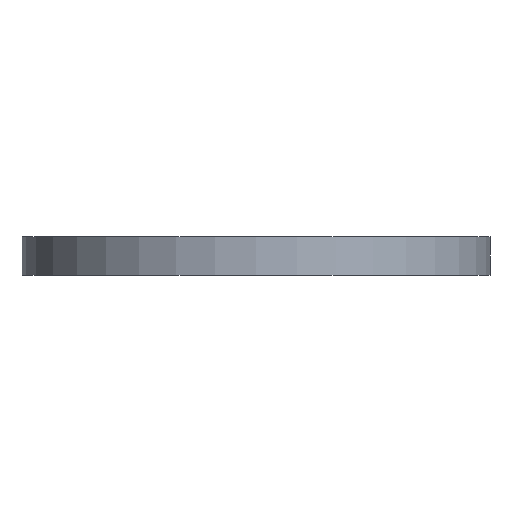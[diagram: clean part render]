
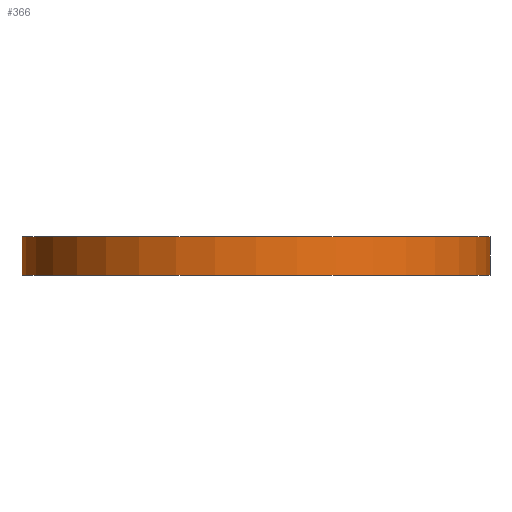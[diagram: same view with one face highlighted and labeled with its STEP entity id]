
A CAD part, front view. The second image highlights one B-rep face of the part: STEP entity #366.
In plain terms, the highlighted cylindrical face has radius 257.5 mm (diameter 515 mm), a partial arc.
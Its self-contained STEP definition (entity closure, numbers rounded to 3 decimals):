
#37 = AXIS2_PLACEMENT_3D ( 'NONE', #254, #252, #251 ) ;
#95 = DIRECTION ( 'NONE',  ( 1., 0., 0. ) ) ;
#96 = DIRECTION ( 'NONE',  ( 0., 0., 1. ) ) ;
#98 = CARTESIAN_POINT ( 'NONE',  ( 0., 0., -125. ) ) ;
#99 = CYLINDRICAL_SURFACE ( 'NONE', #423, 257.5 ) ;
#100 = EDGE_CURVE ( 'NONE', #777, #845, #823, .T. ) ;
#101 = FACE_OUTER_BOUND ( 'NONE', #278, .T. ) ;
#102 = DIRECTION ( 'NONE',  ( 1., 0., 0. ) ) ;
#103 = DIRECTION ( 'NONE',  ( 0., 0., 1. ) ) ;
#104 = CARTESIAN_POINT ( 'NONE',  ( 0., 0., -42. ) ) ;
#120 = DIRECTION ( 'NONE',  ( 0., 0., 1. ) ) ;
#121 = CARTESIAN_POINT ( 'NONE',  ( 257.5, 0., -125. ) ) ;
#122 = LINE ( 'NONE', #121, #1163 ) ;
#155 = EDGE_CURVE ( 'NONE', #845, #634, #249, .T. ) ;
#249 = CIRCLE ( 'NONE', #37, 257.5 ) ;
#251 = DIRECTION ( 'NONE',  ( 1., 0., 0. ) ) ;
#252 = DIRECTION ( 'NONE',  ( 0., 0., 1. ) ) ;
#254 = CARTESIAN_POINT ( 'NONE',  ( 0., 0., 0. ) ) ;
#258 = CARTESIAN_POINT ( 'NONE',  ( -257.5, 0., -125. ) ) ;
#278 = EDGE_LOOP ( 'NONE', ( #1076, #1078, #1083, #1084 ) ) ;
#293 = DIRECTION ( 'NONE',  ( 0., 0., 1. ) ) ;
#338 = EDGE_CURVE ( 'NONE', #646, #634, #122, .T. ) ;
#365 = EDGE_CURVE ( 'NONE', #777, #646, #1109, .T. ) ;
#366 = ADVANCED_FACE ( 'NONE', ( #101 ), #99, .T. ) ;
#400 = VECTOR ( 'NONE', #293, 1000. ) ;
#423 = AXIS2_PLACEMENT_3D ( 'NONE', #98, #96, #95 ) ;
#634 = VERTEX_POINT ( 'NONE', #1276 ) ;
#646 = VERTEX_POINT ( 'NONE', #1244 ) ;
#777 = VERTEX_POINT ( 'NONE', #1151 ) ;
#823 = LINE ( 'NONE', #258, #400 ) ;
#845 = VERTEX_POINT ( 'NONE', #1077 ) ;
#1076 = ORIENTED_EDGE ( 'NONE', *, *, #100, .F. ) ;
#1077 = CARTESIAN_POINT ( 'NONE',  ( -257.5, 0., 0. ) ) ;
#1078 = ORIENTED_EDGE ( 'NONE', *, *, #365, .T. ) ;
#1083 = ORIENTED_EDGE ( 'NONE', *, *, #338, .T. ) ;
#1084 = ORIENTED_EDGE ( 'NONE', *, *, #155, .F. ) ;
#1109 = CIRCLE ( 'NONE', #1116, 257.5 ) ;
#1116 = AXIS2_PLACEMENT_3D ( 'NONE', #104, #103, #102 ) ;
#1151 = CARTESIAN_POINT ( 'NONE',  ( -257.5, 0., -42. ) ) ;
#1163 = VECTOR ( 'NONE', #120, 1000. ) ;
#1244 = CARTESIAN_POINT ( 'NONE',  ( 257.5, 0., -42. ) ) ;
#1276 = CARTESIAN_POINT ( 'NONE',  ( 257.5, 0., 0. ) ) ;
